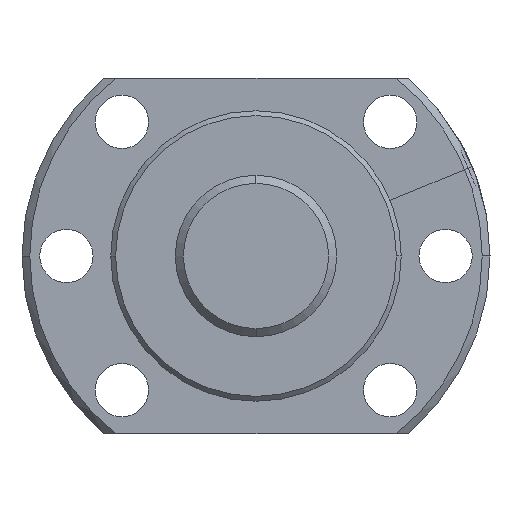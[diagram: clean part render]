
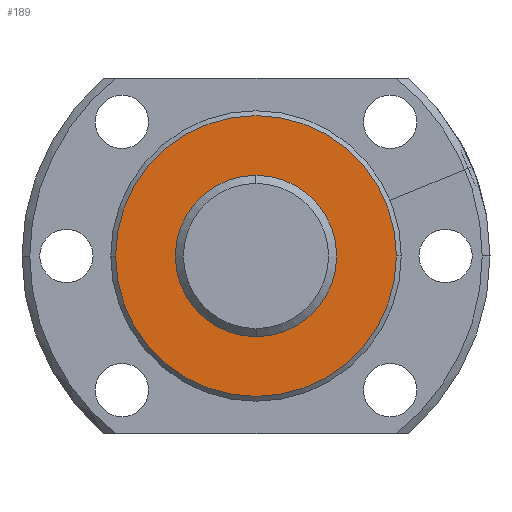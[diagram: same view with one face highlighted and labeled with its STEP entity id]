
A CAD part, left-side view. The second image highlights one B-rep face of the part: STEP entity #189.
In plain terms, the highlighted planar face has unit normal (-1, 0, 0).
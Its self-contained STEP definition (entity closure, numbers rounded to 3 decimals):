
#189 = ADVANCED_FACE( '', ( #345, #346 ), #347, .T. );
#345 = FACE_BOUND( '', #502, .T. );
#346 = FACE_OUTER_BOUND( '', #503, .T. );
#347 = PLANE( '', #504 );
#502 = EDGE_LOOP( '', ( #1009, #1010 ) );
#503 = EDGE_LOOP( '', ( #1011, #1012 ) );
#504 = AXIS2_PLACEMENT_3D( '', #1013, #1014, #1015 );
#1009 = ORIENTED_EDGE( '', *, *, #1159, .F. );
#1010 = ORIENTED_EDGE( '', *, *, #1085, .F. );
#1011 = ORIENTED_EDGE( '', *, *, #1057, .T. );
#1012 = ORIENTED_EDGE( '', *, *, #1170, .T. );
#1013 = CARTESIAN_POINT( '', ( 5., 13.7, 0. ) );
#1014 = DIRECTION( '', ( -1., 0., 0. ) );
#1015 = DIRECTION( '', ( 0., 1., 0. ) );
#1057 = EDGE_CURVE( '', #1234, #1238, #1240, .T. );
#1085 = EDGE_CURVE( '', #1290, #1286, #1292, .T. );
#1159 = EDGE_CURVE( '', #1286, #1290, #1413, .T. );
#1170 = EDGE_CURVE( '', #1238, #1234, #1424, .T. );
#1234 = VERTEX_POINT( '', #1502 );
#1238 = VERTEX_POINT( '', #1507 );
#1240 = CIRCLE( '', #1510, 17.4 );
#1286 = VERTEX_POINT( '', #1586 );
#1290 = VERTEX_POINT( '', #1591 );
#1292 = CIRCLE( '', #1594, 10. );
#1413 = CIRCLE( '', #1929, 10. );
#1424 = CIRCLE( '', #1940, 17.4 );
#1502 = CARTESIAN_POINT( '', ( 5., 17.4, 0. ) );
#1507 = CARTESIAN_POINT( '', ( 5., -17.4, 0. ) );
#1510 = AXIS2_PLACEMENT_3D( '', #2032, #2033, #2034 );
#1586 = CARTESIAN_POINT( '', ( 5., 10., 0. ) );
#1591 = CARTESIAN_POINT( '', ( 5., -10., 0. ) );
#1594 = AXIS2_PLACEMENT_3D( '', #2082, #2083, #2084 );
#1929 = AXIS2_PLACEMENT_3D( '', #2219, #2220, #2221 );
#1940 = AXIS2_PLACEMENT_3D( '', #2252, #2253, #2254 );
#2032 = CARTESIAN_POINT( '', ( 5., 0., 0. ) );
#2033 = DIRECTION( '', ( -1., 0., 0. ) );
#2034 = DIRECTION( '', ( 0., 1., 0. ) );
#2082 = CARTESIAN_POINT( '', ( 5., 0., 0. ) );
#2083 = DIRECTION( '', ( -1., 0., 0. ) );
#2084 = DIRECTION( '', ( 0., 1., 0. ) );
#2219 = CARTESIAN_POINT( '', ( 5., 0., 0. ) );
#2220 = DIRECTION( '', ( -1., 0., 0. ) );
#2221 = DIRECTION( '', ( 0., 1., 0. ) );
#2252 = CARTESIAN_POINT( '', ( 5., 0., 0. ) );
#2253 = DIRECTION( '', ( -1., 0., 0. ) );
#2254 = DIRECTION( '', ( 0., 1., 0. ) );
